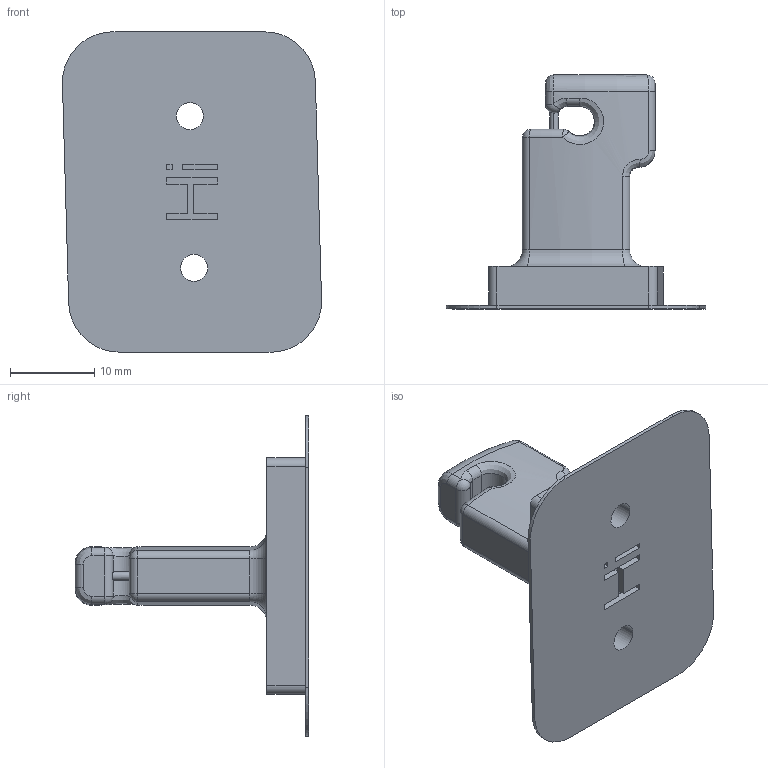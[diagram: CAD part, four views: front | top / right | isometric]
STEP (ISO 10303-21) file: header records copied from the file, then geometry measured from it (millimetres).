
FILE_DESCRIPTION((''),'2;1');
FILE_NAME('0000200909','2024-01-10T08:40:30',('Wyndorps'),(''),'CREO PARAMETRIC BY PTC INC, 2022484','CREO PARAMETRIC BY PTC INC, 2022484','');
FILE_SCHEMA(('CONFIG_CONTROL_DESIGN'));
Length unit declared in the file: millimetre
Products named in the file (1): 0000200909
Bounding box: 30.74 x 27.75 x 38 mm (x, y, z)
Volume: 4741.1 mm3; surface area: 3650.5 mm2
Topology: 1 solids, 1 shells, 110 faces, 261 edges, 158 vertices
Faces by surface type: plane 41, cylinder 35, bspline 12, torus 12, sphere 6, cone 4
Entity records: 4420 total; most frequent: CARTESIAN_POINT 1860, DIRECTION 529, ORIENTED_EDGE 522, EDGE_CURVE 261, AXIS2_PLACEMENT_3D 196, VERTEX_POINT 158, VECTOR 137, LINE 137
